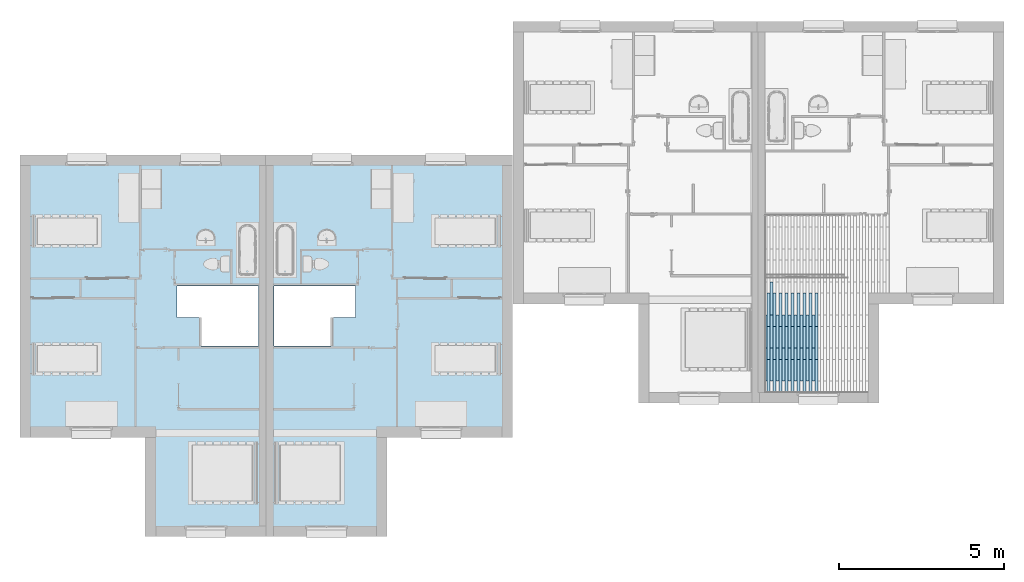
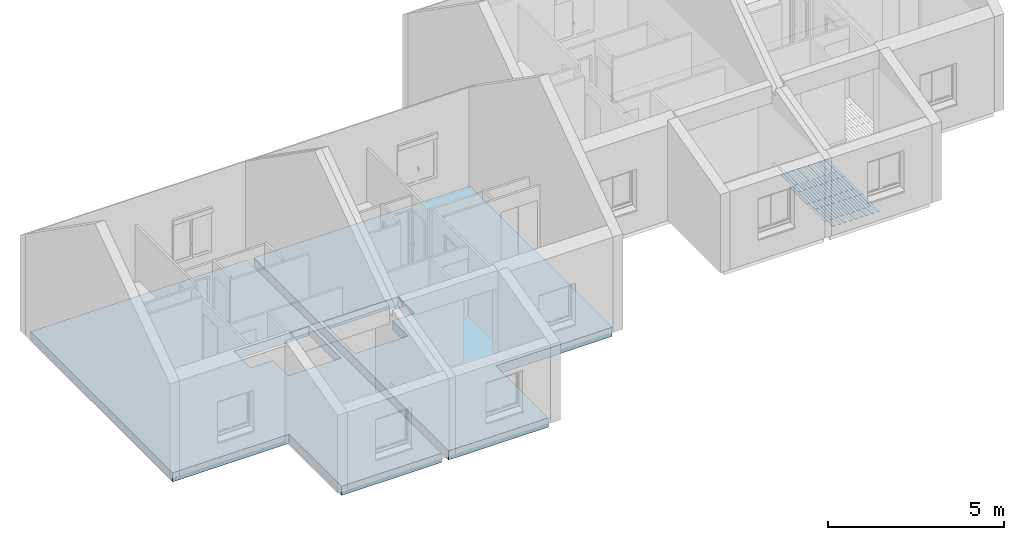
# One storey, part 1 of 50: 48 slabs, 2 openings.
"""IFC2X3 building model written with IfcOpenShell, lengths in metres."""

from ifc_helpers import new_model, entity, si_unit, converted_unit, derived_unit, direction, frame, frame_2d, origin, place, context, subcontext, project, spatial, polyline, rectangle, outline, extrude, material, layer, layer_set, layer_usage, element, save


model = new_model("IFC2X3")

# Units and contexts
model_context = context("Model", 3, precision=1e-05, world=origin(), true_north=direction((6.12303176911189e-17, 1.0)))
context_of_model = context(None, 3, precision=1e-05, world=origin(), true_north=direction((6.12303176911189e-17, 1.0)))
body_context = subcontext(model_context, "Body", "Model", "MODEL_VIEW")
ifc_project = project(units=[si_unit("LENGTHUNIT", "METRE"), si_unit("AREAUNIT", "SQUARE_METRE"), si_unit("VOLUMEUNIT", "CUBIC_METRE"), converted_unit("PLANEANGLEUNIT", "DEGREE", entity("IfcRatioMeasure", 0.0174532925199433), si_unit("PLANEANGLEUNIT", "RADIAN"), dimensions=[0, 0, 0, 0, 0, 0, 0]), si_unit("MASSUNIT", "GRAM", prefix="KILO"), si_unit("TIMEUNIT", "SECOND"), si_unit("FREQUENCYUNIT", "HERTZ"), si_unit("THERMODYNAMICTEMPERATUREUNIT", "DEGREE_CELSIUS"), derived_unit("THERMALTRANSMITTANCEUNIT", [(si_unit("MASSUNIT", "GRAM", prefix="KILO"), 1), (si_unit("THERMODYNAMICTEMPERATUREUNIT", "KELVIN"), -1), (si_unit("TIMEUNIT", "SECOND"), -3)]), derived_unit("VOLUMETRICFLOWRATEUNIT", [(si_unit("LENGTHUNIT", "METRE"), 3), (si_unit("TIMEUNIT", "SECOND"), -1)]), si_unit("ELECTRICCURRENTUNIT", "AMPERE"), si_unit("ELECTRICVOLTAGEUNIT", "VOLT"), si_unit("POWERUNIT", "WATT"), si_unit("FORCEUNIT", "NEWTON", prefix="KILO"), si_unit("ILLUMINANCEUNIT", "LUX"), si_unit("LUMINOUSFLUXUNIT", "LUMEN"), si_unit("LUMINOUSINTENSITYUNIT", "CANDELA"), si_unit("PRESSUREUNIT", "PASCAL")], contexts=[model_context, context_of_model])

# Site, building, storey
site_placement = place(None, origin())
site = spatial("IfcSite", under=ifc_project, at=site_placement, Name="Surface", CompositionType="ELEMENT")
building_placement = place(site_placement, origin())
building = spatial("IfcBuilding", under=site, at=building_placement, CompositionType="ELEMENT")
storey_placement = place(building_placement, frame((0.0, 0.0, 2.82)))
storey = spatial("IfcBuildingStorey", under=building, at=storey_placement, Name="ETAGE", CompositionType="ELEMENT", Elevation=2.82)

# Slab, opening
ifc_material_1 = material(Name="Béton")
ifc_layer_1 = layer(ifc_material_1, 0.2)
ifc_material_2 = material(Name="Isolant")
ifc_layer_2 = layer(ifc_material_2, 0.1)
ifc_material_3 = material(Name="Plastique - Blanc")
ifc_layer_3 = layer(ifc_material_3, 0.02)
ifc_layer_set_1 = layer_set([ifc_layer_1, ifc_layer_2, ifc_layer_3], Name="Sol:Dalle Béton - 20 cm  + FAUX PLAFOND")
ifc_layer_usage_1 = layer_usage(ifc_layer_set_1, "AXIS3", "POSITIVE", 0.0)
slab_1_placement = place(storey_placement, frame((68.9546263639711, 77.1177566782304, -0.3)))
slab_1 = element("IfcSlab", 1, at=slab_1_placement, inside=storey, material=ifc_layer_usage_1, Name="Sol:Dalle Béton - 20 cm  + FAUX PLAFOND", ObjectType="Sol:Dalle Béton - 20 cm  + FAUX PLAFOND", PredefinedType="FLOOR", context=body_context, shape_type="SweptSolid", body=[
    extrude(outline(polyline([(-3.55413147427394, 5.545), (-3.55413147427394, -5.545), (-0.27413147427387, -5.54499999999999), (-0.27413147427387, -2.55499999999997), (3.55413147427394, -2.55499999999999), (3.55413147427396, 5.545), (-3.55413147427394, 5.545)])), frame((3.55413147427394, 5.545, 0.32)), (0.0, 0.0, -1.0), 0.32),
])
opening_1_placement = place(storey_placement, frame((68.9546263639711, 77.1177566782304, -0.3)))
element("IfcOpeningElement", 2, at=opening_1_placement, cuts=slab_1, ObjectType="Opening", context=body_context, shape_type="SweptSolid", body=[
    extrude(outline(polyline([(3.44496571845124, 1.7966805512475), (0.977465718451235, 1.7966805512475), (0.977465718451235, 0.852480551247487), (1.70746571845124, 0.852480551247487), (1.70746571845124, -0.0199999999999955), (3.44496571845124, -0.0199999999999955), (3.44496571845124, 1.7966805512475)])), frame((3.55413147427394, 5.545, 0.32), z_axis=(0.0, 0.0, -1.0), x_axis=(-1.0, 0.0, 0.0)), (0.0, 0.0, 1.0), 0.32),
])

ifc_layer_usage_2 = layer_usage(ifc_layer_set_1, "AXIS3", "POSITIVE", 0.0)
slab_2_placement = place(storey_placement, frame((61.6063634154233, 77.1177566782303, -0.3)))
slab_2 = element("IfcSlab", 3, at=slab_2_placement, inside=storey, material=ifc_layer_usage_2, Name="Sol:Dalle Béton - 20 cm  + FAUX PLAFOND", ObjectType="Sol:Dalle Béton - 20 cm  + FAUX PLAFOND", PredefinedType="FLOOR", context=body_context, shape_type="SweptSolid", body=[
    extrude(outline(polyline([(3.55413147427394, 5.545), (-3.55413147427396, 5.545), (-3.55413147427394, -2.55499999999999), (0.27413147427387, -2.55499999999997), (0.27413147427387, -5.54499999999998), (3.55413147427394, -5.545), (3.55413147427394, 5.545)])), frame((3.55413147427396, 5.545, 0.32)), (0.0, 0.0, -1.0), 0.32),
])
opening_2_placement = place(storey_placement, frame((61.6063634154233, 77.1177566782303, -0.3)))
element("IfcOpeningElement", 4, at=opening_2_placement, cuts=slab_2, ObjectType="Opening", context=body_context, shape_type="SweptSolid", body=[
    extrude(outline(polyline([(-3.44496571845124, 1.7966805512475), (-3.44496571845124, -0.0199999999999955), (-1.70746571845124, -0.0199999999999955), (-1.70746571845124, 0.852480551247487), (-0.977465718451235, 0.852480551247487), (-0.977465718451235, 1.7966805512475), (-3.44496571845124, 1.7966805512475)])), frame((3.55413147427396, 5.545, 0.32), z_axis=(0.0, 0.0, -1.0), x_axis=(-1.0, 0.0, 0.0)), (0.0, 0.0, 1.0), 0.32),
])

# Slabs
ifc_material_4 = material(Name="PARQUET BAMBOU")
ifc_layer_4 = layer(ifc_material_4, 0.01)
ifc_layer_set_2 = layer_set([ifc_layer_4], Name="Sol:LAME DE BAMBOU")
ifc_layer_usage_3 = layer_usage(ifc_layer_set_2, "AXIS3", "POSITIVE", 0.0)
slab_3_placement = place(storey_placement, origin())
element("IfcSlab", 5, at=slab_3_placement, inside=storey, material=ifc_layer_usage_3, Name="Sol:LAME DE BAMBOU", ObjectType="Sol:LAME DE BAMBOU", PredefinedType="FLOOR", context=body_context, shape_type="SweptSolid", body=[
    extrude(rectangle(XDim=0.999999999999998, YDim=0.0899999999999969, at=frame_2d((8.68749516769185e-15, 8.66320903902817e-15), x_axis=(1.0, 0.0))), frame((84.0360898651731, 81.7475239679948, 0.05), z_axis=(0.0, 0.0, -1.0), x_axis=(0.0, 1.0, 0.0)), (0.0, 0.0, 1.0), 0.00999999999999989),
])
ifc_layer_usage_4 = layer_usage(ifc_layer_set_2, "AXIS3", "POSITIVE", 0.0)
slab_4_placement = place(storey_placement, origin())
element("IfcSlab", 6, at=slab_4_placement, inside=storey, material=ifc_layer_usage_4, Name="Sol:LAME DE BAMBOU", ObjectType="Sol:LAME DE BAMBOU", PredefinedType="FLOOR", context=body_context, shape_type="SweptSolid", body=[
    extrude(rectangle(XDim=0.999999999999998, YDim=0.0899999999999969, at=frame_2d((-8.68749516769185e-15, 8.66320903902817e-15), x_axis=(1.0, 0.0))), frame((84.0360898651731, 82.7475239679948, 0.05), z_axis=(0.0, 0.0, -1.0), x_axis=(0.0, 1.0, 0.0)), (0.0, 0.0, 1.0), 0.00999999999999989),
])
ifc_layer_usage_5 = layer_usage(ifc_layer_set_2, "AXIS3", "POSITIVE", 0.0)
slab_5_placement = place(storey_placement, origin())
element("IfcSlab", 7, at=slab_5_placement, inside=storey, material=ifc_layer_usage_5, Name="Sol:LAME DE BAMBOU", ObjectType="Sol:LAME DE BAMBOU", PredefinedType="FLOOR", context=body_context, shape_type="SweptSolid", body=[
    extrude(rectangle(XDim=0.999999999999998, YDim=0.0899999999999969, at=frame_2d((8.68749516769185e-15, 8.66320903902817e-15), x_axis=(1.0, 0.0))), frame((84.0360898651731, 83.7475239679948, 0.05), z_axis=(0.0, 0.0, -1.0), x_axis=(0.0, 1.0, 0.0)), (0.0, 0.0, 1.0), 0.00999999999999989),
])
ifc_layer_usage_6 = layer_usage(ifc_layer_set_2, "AXIS3", "POSITIVE", 0.0)
slab_6_placement = place(storey_placement, origin())
element("IfcSlab", 8, at=slab_6_placement, inside=storey, material=ifc_layer_usage_6, Name="Sol:LAME DE BAMBOU", ObjectType="Sol:LAME DE BAMBOU", PredefinedType="FLOOR", context=body_context, shape_type="SweptSolid", body=[
    extrude(rectangle(XDim=0.999999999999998, YDim=0.0899999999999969, at=frame_2d((8.68749516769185e-15, 8.66320903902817e-15), x_axis=(1.0, 0.0))), frame((84.1260898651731, 82.0875239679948, 0.05), z_axis=(0.0, 0.0, -1.0), x_axis=(0.0, 1.0, 0.0)), (0.0, 0.0, 1.0), 0.00999999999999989),
])
ifc_layer_usage_7 = layer_usage(ifc_layer_set_2, "AXIS3", "POSITIVE", 0.0)
slab_7_placement = place(storey_placement, origin())
element("IfcSlab", 9, at=slab_7_placement, inside=storey, material=ifc_layer_usage_7, Name="Sol:LAME DE BAMBOU", ObjectType="Sol:LAME DE BAMBOU", PredefinedType="FLOOR", context=body_context, shape_type="SweptSolid", body=[
    extrude(rectangle(XDim=0.999999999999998, YDim=0.0899999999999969, at=frame_2d((-8.68749516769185e-15, 8.66320903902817e-15), x_axis=(1.0, 0.0))), frame((84.1260898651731, 83.0875239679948, 0.05), z_axis=(0.0, 0.0, -1.0), x_axis=(0.0, 1.0, 0.0)), (0.0, 0.0, 1.0), 0.00999999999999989),
])
ifc_layer_usage_8 = layer_usage(ifc_layer_set_2, "AXIS3", "POSITIVE", 0.0)
slab_8_placement = place(storey_placement, origin())
element("IfcSlab", 10, at=slab_8_placement, inside=storey, material=ifc_layer_usage_8, Name="Sol:LAME DE BAMBOU", ObjectType="Sol:LAME DE BAMBOU", PredefinedType="FLOOR", context=body_context, shape_type="SweptSolid", body=[
    extrude(rectangle(XDim=0.999999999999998, YDim=0.0899999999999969, at=frame_2d((8.68749516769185e-15, 8.66320903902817e-15), x_axis=(1.0, 0.0))), frame((84.1260898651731, 84.0875239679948, 0.05), z_axis=(0.0, 0.0, -1.0), x_axis=(0.0, 1.0, 0.0)), (0.0, 0.0, 1.0), 0.00999999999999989),
])
ifc_layer_usage_9 = layer_usage(ifc_layer_set_2, "AXIS3", "POSITIVE", 0.0)
slab_9_placement = place(storey_placement, origin())
element("IfcSlab", 11, at=slab_9_placement, inside=storey, material=ifc_layer_usage_9, Name="Sol:LAME DE BAMBOU", ObjectType="Sol:LAME DE BAMBOU", PredefinedType="FLOOR", context=body_context, shape_type="SweptSolid", body=[
    extrude(rectangle(XDim=0.999999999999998, YDim=0.0899999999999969, at=frame_2d((8.68749516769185e-15, -8.66320903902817e-15), x_axis=(1.0, 0.0))), frame((84.2160898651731, 81.7475239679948, 0.05), z_axis=(0.0, 0.0, -1.0), x_axis=(0.0, 1.0, 0.0)), (0.0, 0.0, 1.0), 0.00999999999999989),
])
ifc_layer_usage_10 = layer_usage(ifc_layer_set_2, "AXIS3", "POSITIVE", 0.0)
slab_10_placement = place(storey_placement, origin())
element("IfcSlab", 12, at=slab_10_placement, inside=storey, material=ifc_layer_usage_10, Name="Sol:LAME DE BAMBOU", ObjectType="Sol:LAME DE BAMBOU", PredefinedType="FLOOR", context=body_context, shape_type="SweptSolid", body=[
    extrude(rectangle(XDim=0.999999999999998, YDim=0.0899999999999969, at=frame_2d((-8.68749516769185e-15, -8.66320903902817e-15), x_axis=(1.0, 0.0))), frame((84.2160898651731, 82.7475239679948, 0.05), z_axis=(0.0, 0.0, -1.0), x_axis=(0.0, 1.0, 0.0)), (0.0, 0.0, 1.0), 0.00999999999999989),
])
ifc_layer_usage_11 = layer_usage(ifc_layer_set_2, "AXIS3", "POSITIVE", 0.0)
slab_11_placement = place(storey_placement, origin())
element("IfcSlab", 13, at=slab_11_placement, inside=storey, material=ifc_layer_usage_11, Name="Sol:LAME DE BAMBOU", ObjectType="Sol:LAME DE BAMBOU", PredefinedType="FLOOR", context=body_context, shape_type="SweptSolid", body=[
    extrude(rectangle(XDim=0.999999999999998, YDim=0.0899999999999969, at=frame_2d((8.68749516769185e-15, -8.66320903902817e-15), x_axis=(1.0, 0.0))), frame((84.2160898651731, 83.7475239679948, 0.05), z_axis=(0.0, 0.0, -1.0), x_axis=(0.0, 1.0, 0.0)), (0.0, 0.0, 1.0), 0.00999999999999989),
])
ifc_layer_usage_12 = layer_usage(ifc_layer_set_2, "AXIS3", "POSITIVE", 0.0)
slab_12_placement = place(storey_placement, origin())
element("IfcSlab", 14, at=slab_12_placement, inside=storey, material=ifc_layer_usage_12, Name="Sol:LAME DE BAMBOU", ObjectType="Sol:LAME DE BAMBOU", PredefinedType="FLOOR", context=body_context, shape_type="SweptSolid", body=[
    extrude(rectangle(XDim=0.999999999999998, YDim=0.0899999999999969, at=frame_2d((8.68749516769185e-15, 8.66320903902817e-15), x_axis=(1.0, 0.0))), frame((84.3060898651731, 82.0875239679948, 0.05), z_axis=(0.0, 0.0, -1.0), x_axis=(0.0, 1.0, 0.0)), (0.0, 0.0, 1.0), 0.00999999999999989),
])
ifc_layer_usage_13 = layer_usage(ifc_layer_set_2, "AXIS3", "POSITIVE", 0.0)
slab_13_placement = place(storey_placement, origin())
element("IfcSlab", 15, at=slab_13_placement, inside=storey, material=ifc_layer_usage_13, Name="Sol:LAME DE BAMBOU", ObjectType="Sol:LAME DE BAMBOU", PredefinedType="FLOOR", context=body_context, shape_type="SweptSolid", body=[
    extrude(rectangle(XDim=0.999999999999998, YDim=0.0899999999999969, at=frame_2d((-8.68749516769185e-15, 8.66320903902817e-15), x_axis=(1.0, 0.0))), frame((84.3060898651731, 83.0875239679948, 0.05), z_axis=(0.0, 0.0, -1.0), x_axis=(0.0, 1.0, 0.0)), (0.0, 0.0, 1.0), 0.00999999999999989),
])
ifc_layer_usage_14 = layer_usage(ifc_layer_set_2, "AXIS3", "POSITIVE", 0.0)
slab_14_placement = place(storey_placement, origin())
element("IfcSlab", 16, at=slab_14_placement, inside=storey, material=ifc_layer_usage_14, Name="Sol:LAME DE BAMBOU", ObjectType="Sol:LAME DE BAMBOU", PredefinedType="FLOOR", context=body_context, shape_type="SweptSolid", body=[
    extrude(rectangle(XDim=0.999999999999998, YDim=0.0899999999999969, at=frame_2d((8.68749516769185e-15, 8.66320903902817e-15), x_axis=(1.0, 0.0))), frame((84.3960898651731, 81.7475239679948, 0.05), z_axis=(0.0, 0.0, -1.0), x_axis=(0.0, 1.0, 0.0)), (0.0, 0.0, 1.0), 0.00999999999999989),
])
ifc_layer_usage_15 = layer_usage(ifc_layer_set_2, "AXIS3", "POSITIVE", 0.0)
slab_15_placement = place(storey_placement, origin())
element("IfcSlab", 17, at=slab_15_placement, inside=storey, material=ifc_layer_usage_15, Name="Sol:LAME DE BAMBOU", ObjectType="Sol:LAME DE BAMBOU", PredefinedType="FLOOR", context=body_context, shape_type="SweptSolid", body=[
    extrude(rectangle(XDim=0.999999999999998, YDim=0.0899999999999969, at=frame_2d((-8.68749516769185e-15, 8.66320903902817e-15), x_axis=(1.0, 0.0))), frame((84.3960898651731, 82.7475239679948, 0.05), z_axis=(0.0, 0.0, -1.0), x_axis=(0.0, 1.0, 0.0)), (0.0, 0.0, 1.0), 0.00999999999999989),
])
ifc_layer_usage_16 = layer_usage(ifc_layer_set_2, "AXIS3", "POSITIVE", 0.0)
slab_16_placement = place(storey_placement, origin())
element("IfcSlab", 18, at=slab_16_placement, inside=storey, material=ifc_layer_usage_16, Name="Sol:LAME DE BAMBOU", ObjectType="Sol:LAME DE BAMBOU", PredefinedType="FLOOR", context=body_context, shape_type="SweptSolid", body=[
    extrude(rectangle(XDim=0.999999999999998, YDim=0.0899999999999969, at=frame_2d((8.68749516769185e-15, 8.66320903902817e-15), x_axis=(1.0, 0.0))), frame((84.3960898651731, 83.7475239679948, 0.05), z_axis=(0.0, 0.0, -1.0), x_axis=(0.0, 1.0, 0.0)), (0.0, 0.0, 1.0), 0.00999999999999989),
])
ifc_layer_usage_17 = layer_usage(ifc_layer_set_2, "AXIS3", "POSITIVE", 0.0)
slab_17_placement = place(storey_placement, origin())
element("IfcSlab", 19, at=slab_17_placement, inside=storey, material=ifc_layer_usage_17, Name="Sol:LAME DE BAMBOU", ObjectType="Sol:LAME DE BAMBOU", PredefinedType="FLOOR", context=body_context, shape_type="SweptSolid", body=[
    extrude(rectangle(XDim=0.999999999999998, YDim=0.0899999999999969, at=frame_2d((8.68749516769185e-15, 8.66320903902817e-15), x_axis=(1.0, 0.0))), frame((84.4860898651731, 82.0875239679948, 0.05), z_axis=(0.0, 0.0, -1.0), x_axis=(0.0, 1.0, 0.0)), (0.0, 0.0, 1.0), 0.00999999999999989),
])
ifc_layer_usage_18 = layer_usage(ifc_layer_set_2, "AXIS3", "POSITIVE", 0.0)
slab_18_placement = place(storey_placement, origin())
element("IfcSlab", 20, at=slab_18_placement, inside=storey, material=ifc_layer_usage_18, Name="Sol:LAME DE BAMBOU", ObjectType="Sol:LAME DE BAMBOU", PredefinedType="FLOOR", context=body_context, shape_type="SweptSolid", body=[
    extrude(rectangle(XDim=0.999999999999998, YDim=0.0899999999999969, at=frame_2d((-8.68749516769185e-15, 8.66320903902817e-15), x_axis=(1.0, 0.0))), frame((84.4860898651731, 83.0875239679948, 0.05), z_axis=(0.0, 0.0, -1.0), x_axis=(0.0, 1.0, 0.0)), (0.0, 0.0, 1.0), 0.00999999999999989),
])
ifc_layer_usage_19 = layer_usage(ifc_layer_set_2, "AXIS3", "POSITIVE", 0.0)
slab_19_placement = place(storey_placement, origin())
element("IfcSlab", 21, at=slab_19_placement, inside=storey, material=ifc_layer_usage_19, Name="Sol:LAME DE BAMBOU", ObjectType="Sol:LAME DE BAMBOU", PredefinedType="FLOOR", context=body_context, shape_type="SweptSolid", body=[
    extrude(rectangle(XDim=0.999999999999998, YDim=0.0899999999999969, at=frame_2d((8.68749516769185e-15, -8.66320903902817e-15), x_axis=(1.0, 0.0))), frame((84.5760898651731, 81.7475239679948, 0.05), z_axis=(0.0, 0.0, -1.0), x_axis=(0.0, 1.0, 0.0)), (0.0, 0.0, 1.0), 0.00999999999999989),
])
ifc_layer_usage_20 = layer_usage(ifc_layer_set_2, "AXIS3", "POSITIVE", 0.0)
slab_20_placement = place(storey_placement, origin())
element("IfcSlab", 22, at=slab_20_placement, inside=storey, material=ifc_layer_usage_20, Name="Sol:LAME DE BAMBOU", ObjectType="Sol:LAME DE BAMBOU", PredefinedType="FLOOR", context=body_context, shape_type="SweptSolid", body=[
    extrude(rectangle(XDim=0.999999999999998, YDim=0.0899999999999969, at=frame_2d((-8.68749516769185e-15, -8.66320903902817e-15), x_axis=(1.0, 0.0))), frame((84.5760898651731, 82.7475239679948, 0.05), z_axis=(0.0, 0.0, -1.0), x_axis=(0.0, 1.0, 0.0)), (0.0, 0.0, 1.0), 0.00999999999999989),
])
ifc_layer_usage_21 = layer_usage(ifc_layer_set_2, "AXIS3", "POSITIVE", 0.0)
slab_21_placement = place(storey_placement, origin())
element("IfcSlab", 23, at=slab_21_placement, inside=storey, material=ifc_layer_usage_21, Name="Sol:LAME DE BAMBOU", ObjectType="Sol:LAME DE BAMBOU", PredefinedType="FLOOR", context=body_context, shape_type="SweptSolid", body=[
    extrude(rectangle(XDim=0.999999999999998, YDim=0.0899999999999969, at=frame_2d((8.68749516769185e-15, -8.66320903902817e-15), x_axis=(1.0, 0.0))), frame((84.5760898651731, 83.7475239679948, 0.05), z_axis=(0.0, 0.0, -1.0), x_axis=(0.0, 1.0, 0.0)), (0.0, 0.0, 1.0), 0.00999999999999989),
])
ifc_layer_usage_22 = layer_usage(ifc_layer_set_2, "AXIS3", "POSITIVE", 0.0)
slab_22_placement = place(storey_placement, origin())
element("IfcSlab", 24, at=slab_22_placement, inside=storey, material=ifc_layer_usage_22, Name="Sol:LAME DE BAMBOU", ObjectType="Sol:LAME DE BAMBOU", PredefinedType="FLOOR", context=body_context, shape_type="SweptSolid", body=[
    extrude(rectangle(XDim=0.999999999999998, YDim=0.0899999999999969, at=frame_2d((8.68749516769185e-15, 8.66320903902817e-15), x_axis=(1.0, 0.0))), frame((84.6660898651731, 82.0875239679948, 0.05), z_axis=(0.0, 0.0, -1.0), x_axis=(0.0, 1.0, 0.0)), (0.0, 0.0, 1.0), 0.00999999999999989),
])
ifc_layer_usage_23 = layer_usage(ifc_layer_set_2, "AXIS3", "POSITIVE", 0.0)
slab_23_placement = place(storey_placement, origin())
element("IfcSlab", 25, at=slab_23_placement, inside=storey, material=ifc_layer_usage_23, Name="Sol:LAME DE BAMBOU", ObjectType="Sol:LAME DE BAMBOU", PredefinedType="FLOOR", context=body_context, shape_type="SweptSolid", body=[
    extrude(rectangle(XDim=0.999999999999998, YDim=0.0899999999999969, at=frame_2d((-8.68749516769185e-15, 8.66320903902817e-15), x_axis=(1.0, 0.0))), frame((84.6660898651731, 83.0875239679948, 0.05), z_axis=(0.0, 0.0, -1.0), x_axis=(0.0, 1.0, 0.0)), (0.0, 0.0, 1.0), 0.00999999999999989),
])
ifc_layer_usage_24 = layer_usage(ifc_layer_set_2, "AXIS3", "POSITIVE", 0.0)
slab_24_placement = place(storey_placement, origin())
element("IfcSlab", 26, at=slab_24_placement, inside=storey, material=ifc_layer_usage_24, Name="Sol:LAME DE BAMBOU", ObjectType="Sol:LAME DE BAMBOU", PredefinedType="FLOOR", context=body_context, shape_type="SweptSolid", body=[
    extrude(rectangle(XDim=0.999999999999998, YDim=0.0899999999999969, at=frame_2d((8.68749516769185e-15, 8.66320903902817e-15), x_axis=(1.0, 0.0))), frame((84.7560898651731, 81.7475239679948, 0.05), z_axis=(0.0, 0.0, -1.0), x_axis=(0.0, 1.0, 0.0)), (0.0, 0.0, 1.0), 0.00999999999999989),
])
ifc_layer_usage_25 = layer_usage(ifc_layer_set_2, "AXIS3", "POSITIVE", 0.0)
slab_25_placement = place(storey_placement, origin())
element("IfcSlab", 27, at=slab_25_placement, inside=storey, material=ifc_layer_usage_25, Name="Sol:LAME DE BAMBOU", ObjectType="Sol:LAME DE BAMBOU", PredefinedType="FLOOR", context=body_context, shape_type="SweptSolid", body=[
    extrude(rectangle(XDim=0.999999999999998, YDim=0.0899999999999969, at=frame_2d((-8.68749516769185e-15, 8.66320903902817e-15), x_axis=(1.0, 0.0))), frame((84.7560898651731, 82.7475239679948, 0.05), z_axis=(0.0, 0.0, -1.0), x_axis=(0.0, 1.0, 0.0)), (0.0, 0.0, 1.0), 0.00999999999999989),
])
ifc_layer_usage_26 = layer_usage(ifc_layer_set_2, "AXIS3", "POSITIVE", 0.0)
slab_26_placement = place(storey_placement, origin())
element("IfcSlab", 28, at=slab_26_placement, inside=storey, material=ifc_layer_usage_26, Name="Sol:LAME DE BAMBOU", ObjectType="Sol:LAME DE BAMBOU", PredefinedType="FLOOR", context=body_context, shape_type="SweptSolid", body=[
    extrude(rectangle(XDim=0.999999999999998, YDim=0.0899999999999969, at=frame_2d((8.68749516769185e-15, 8.66320903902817e-15), x_axis=(1.0, 0.0))), frame((84.7560898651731, 83.7475239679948, 0.05), z_axis=(0.0, 0.0, -1.0), x_axis=(0.0, 1.0, 0.0)), (0.0, 0.0, 1.0), 0.00999999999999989),
])
ifc_layer_usage_27 = layer_usage(ifc_layer_set_2, "AXIS3", "POSITIVE", 0.0)
slab_27_placement = place(storey_placement, origin())
element("IfcSlab", 29, at=slab_27_placement, inside=storey, material=ifc_layer_usage_27, Name="Sol:LAME DE BAMBOU", ObjectType="Sol:LAME DE BAMBOU", PredefinedType="FLOOR", context=body_context, shape_type="SweptSolid", body=[
    extrude(rectangle(XDim=0.999999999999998, YDim=0.0899999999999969, at=frame_2d((8.68749516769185e-15, 8.66320903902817e-15), x_axis=(1.0, 0.0))), frame((84.8460898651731, 82.0875239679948, 0.05), z_axis=(0.0, 0.0, -1.0), x_axis=(0.0, 1.0, 0.0)), (0.0, 0.0, 1.0), 0.00999999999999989),
])
ifc_layer_usage_28 = layer_usage(ifc_layer_set_2, "AXIS3", "POSITIVE", 0.0)
slab_28_placement = place(storey_placement, origin())
element("IfcSlab", 30, at=slab_28_placement, inside=storey, material=ifc_layer_usage_28, Name="Sol:LAME DE BAMBOU", ObjectType="Sol:LAME DE BAMBOU", PredefinedType="FLOOR", context=body_context, shape_type="SweptSolid", body=[
    extrude(rectangle(XDim=0.999999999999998, YDim=0.0899999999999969, at=frame_2d((-8.68749516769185e-15, 8.66320903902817e-15), x_axis=(1.0, 0.0))), frame((84.8460898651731, 83.0875239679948, 0.05), z_axis=(0.0, 0.0, -1.0), x_axis=(0.0, 1.0, 0.0)), (0.0, 0.0, 1.0), 0.00999999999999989),
])
ifc_layer_usage_29 = layer_usage(ifc_layer_set_2, "AXIS3", "POSITIVE", 0.0)
slab_29_placement = place(storey_placement, origin())
element("IfcSlab", 31, at=slab_29_placement, inside=storey, material=ifc_layer_usage_29, Name="Sol:LAME DE BAMBOU", ObjectType="Sol:LAME DE BAMBOU", PredefinedType="FLOOR", context=body_context, shape_type="SweptSolid", body=[
    extrude(rectangle(XDim=0.999999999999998, YDim=0.0899999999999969, at=frame_2d((8.68749516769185e-15, -8.66320903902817e-15), x_axis=(1.0, 0.0))), frame((84.9360898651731, 81.7475239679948, 0.05), z_axis=(0.0, 0.0, -1.0), x_axis=(0.0, 1.0, 0.0)), (0.0, 0.0, 1.0), 0.00999999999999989),
])
ifc_layer_usage_30 = layer_usage(ifc_layer_set_2, "AXIS3", "POSITIVE", 0.0)
slab_30_placement = place(storey_placement, origin())
element("IfcSlab", 32, at=slab_30_placement, inside=storey, material=ifc_layer_usage_30, Name="Sol:LAME DE BAMBOU", ObjectType="Sol:LAME DE BAMBOU", PredefinedType="FLOOR", context=body_context, shape_type="SweptSolid", body=[
    extrude(rectangle(XDim=0.999999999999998, YDim=0.0899999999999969, at=frame_2d((-8.68749516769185e-15, -8.66320903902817e-15), x_axis=(1.0, 0.0))), frame((84.9360898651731, 82.7475239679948, 0.05), z_axis=(0.0, 0.0, -1.0), x_axis=(0.0, 1.0, 0.0)), (0.0, 0.0, 1.0), 0.00999999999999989),
])
ifc_layer_usage_31 = layer_usage(ifc_layer_set_2, "AXIS3", "POSITIVE", 0.0)
slab_31_placement = place(storey_placement, origin())
element("IfcSlab", 33, at=slab_31_placement, inside=storey, material=ifc_layer_usage_31, Name="Sol:LAME DE BAMBOU", ObjectType="Sol:LAME DE BAMBOU", PredefinedType="FLOOR", context=body_context, shape_type="SweptSolid", body=[
    extrude(rectangle(XDim=0.999999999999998, YDim=0.0899999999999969, at=frame_2d((8.68749516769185e-15, -8.66320903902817e-15), x_axis=(1.0, 0.0))), frame((84.9360898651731, 83.7475239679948, 0.05), z_axis=(0.0, 0.0, -1.0), x_axis=(0.0, 1.0, 0.0)), (0.0, 0.0, 1.0), 0.00999999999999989),
])
ifc_layer_usage_32 = layer_usage(ifc_layer_set_2, "AXIS3", "POSITIVE", 0.0)
slab_32_placement = place(storey_placement, origin())
element("IfcSlab", 34, at=slab_32_placement, inside=storey, material=ifc_layer_usage_32, Name="Sol:LAME DE BAMBOU", ObjectType="Sol:LAME DE BAMBOU", PredefinedType="FLOOR", context=body_context, shape_type="SweptSolid", body=[
    extrude(rectangle(XDim=0.999999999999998, YDim=0.0899999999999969, at=frame_2d((8.68749516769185e-15, 8.66320903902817e-15), x_axis=(1.0, 0.0))), frame((85.026089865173, 82.0875239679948, 0.05), z_axis=(0.0, 0.0, -1.0), x_axis=(0.0, 1.0, 0.0)), (0.0, 0.0, 1.0), 0.00999999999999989),
])
ifc_layer_usage_33 = layer_usage(ifc_layer_set_2, "AXIS3", "POSITIVE", 0.0)
slab_33_placement = place(storey_placement, origin())
element("IfcSlab", 35, at=slab_33_placement, inside=storey, material=ifc_layer_usage_33, Name="Sol:LAME DE BAMBOU", ObjectType="Sol:LAME DE BAMBOU", PredefinedType="FLOOR", context=body_context, shape_type="SweptSolid", body=[
    extrude(rectangle(XDim=0.999999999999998, YDim=0.0899999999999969, at=frame_2d((-8.68749516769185e-15, 8.66320903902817e-15), x_axis=(1.0, 0.0))), frame((85.026089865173, 83.0875239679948, 0.05), z_axis=(0.0, 0.0, -1.0), x_axis=(0.0, 1.0, 0.0)), (0.0, 0.0, 1.0), 0.00999999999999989),
])
ifc_layer_usage_34 = layer_usage(ifc_layer_set_2, "AXIS3", "POSITIVE", 0.0)
slab_34_placement = place(storey_placement, origin())
element("IfcSlab", 36, at=slab_34_placement, inside=storey, material=ifc_layer_usage_34, Name="Sol:LAME DE BAMBOU", ObjectType="Sol:LAME DE BAMBOU", PredefinedType="FLOOR", context=body_context, shape_type="SweptSolid", body=[
    extrude(rectangle(XDim=0.999999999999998, YDim=0.0899999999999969, at=frame_2d((8.68749516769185e-15, 8.66320903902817e-15), x_axis=(1.0, 0.0))), frame((85.116089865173, 81.7475239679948, 0.05), z_axis=(0.0, 0.0, -1.0), x_axis=(0.0, 1.0, 0.0)), (0.0, 0.0, 1.0), 0.00999999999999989),
])
ifc_layer_usage_35 = layer_usage(ifc_layer_set_2, "AXIS3", "POSITIVE", 0.0)
slab_35_placement = place(storey_placement, origin())
element("IfcSlab", 37, at=slab_35_placement, inside=storey, material=ifc_layer_usage_35, Name="Sol:LAME DE BAMBOU", ObjectType="Sol:LAME DE BAMBOU", PredefinedType="FLOOR", context=body_context, shape_type="SweptSolid", body=[
    extrude(rectangle(XDim=0.999999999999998, YDim=0.0899999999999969, at=frame_2d((-8.68749516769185e-15, 8.66320903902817e-15), x_axis=(1.0, 0.0))), frame((85.116089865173, 82.7475239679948, 0.05), z_axis=(0.0, 0.0, -1.0), x_axis=(0.0, 1.0, 0.0)), (0.0, 0.0, 1.0), 0.00999999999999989),
])
ifc_layer_usage_36 = layer_usage(ifc_layer_set_2, "AXIS3", "POSITIVE", 0.0)
slab_36_placement = place(storey_placement, origin())
element("IfcSlab", 38, at=slab_36_placement, inside=storey, material=ifc_layer_usage_36, Name="Sol:LAME DE BAMBOU", ObjectType="Sol:LAME DE BAMBOU", PredefinedType="FLOOR", context=body_context, shape_type="SweptSolid", body=[
    extrude(rectangle(XDim=0.999999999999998, YDim=0.0899999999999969, at=frame_2d((8.68749516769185e-15, 8.66320903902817e-15), x_axis=(1.0, 0.0))), frame((85.116089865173, 83.7475239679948, 0.05), z_axis=(0.0, 0.0, -1.0), x_axis=(0.0, 1.0, 0.0)), (0.0, 0.0, 1.0), 0.00999999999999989),
])
ifc_layer_usage_37 = layer_usage(ifc_layer_set_2, "AXIS3", "POSITIVE", 0.0)
slab_37_placement = place(storey_placement, origin())
element("IfcSlab", 39, at=slab_37_placement, inside=storey, material=ifc_layer_usage_37, Name="Sol:LAME DE BAMBOU", ObjectType="Sol:LAME DE BAMBOU", PredefinedType="FLOOR", context=body_context, shape_type="SweptSolid", body=[
    extrude(rectangle(XDim=0.999999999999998, YDim=0.0899999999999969, at=frame_2d((8.68749516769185e-15, 8.66320903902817e-15), x_axis=(1.0, 0.0))), frame((85.206089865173, 82.0875239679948, 0.05), z_axis=(0.0, 0.0, -1.0), x_axis=(0.0, 1.0, 0.0)), (0.0, 0.0, 1.0), 0.00999999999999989),
])
ifc_layer_usage_38 = layer_usage(ifc_layer_set_2, "AXIS3", "POSITIVE", 0.0)
slab_38_placement = place(storey_placement, origin())
element("IfcSlab", 40, at=slab_38_placement, inside=storey, material=ifc_layer_usage_38, Name="Sol:LAME DE BAMBOU", ObjectType="Sol:LAME DE BAMBOU", PredefinedType="FLOOR", context=body_context, shape_type="SweptSolid", body=[
    extrude(rectangle(XDim=0.999999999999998, YDim=0.0899999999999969, at=frame_2d((-8.68749516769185e-15, 8.66320903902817e-15), x_axis=(1.0, 0.0))), frame((85.206089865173, 83.0875239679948, 0.05), z_axis=(0.0, 0.0, -1.0), x_axis=(0.0, 1.0, 0.0)), (0.0, 0.0, 1.0), 0.00999999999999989),
])
ifc_layer_usage_39 = layer_usage(ifc_layer_set_2, "AXIS3", "POSITIVE", 0.0)
slab_39_placement = place(storey_placement, origin())
element("IfcSlab", 41, at=slab_39_placement, inside=storey, material=ifc_layer_usage_39, Name="Sol:LAME DE BAMBOU", ObjectType="Sol:LAME DE BAMBOU", PredefinedType="FLOOR", context=body_context, shape_type="SweptSolid", body=[
    extrude(rectangle(XDim=0.999999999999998, YDim=0.0899999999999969, at=frame_2d((8.68749516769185e-15, -8.66320903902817e-15), x_axis=(1.0, 0.0))), frame((85.2960898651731, 81.7475239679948, 0.05), z_axis=(0.0, 0.0, -1.0), x_axis=(0.0, 1.0, 0.0)), (0.0, 0.0, 1.0), 0.00999999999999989),
])
ifc_layer_usage_40 = layer_usage(ifc_layer_set_2, "AXIS3", "POSITIVE", 0.0)
slab_40_placement = place(storey_placement, origin())
element("IfcSlab", 42, at=slab_40_placement, inside=storey, material=ifc_layer_usage_40, Name="Sol:LAME DE BAMBOU", ObjectType="Sol:LAME DE BAMBOU", PredefinedType="FLOOR", context=body_context, shape_type="SweptSolid", body=[
    extrude(rectangle(XDim=0.999999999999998, YDim=0.0899999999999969, at=frame_2d((-8.68749516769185e-15, -8.66320903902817e-15), x_axis=(1.0, 0.0))), frame((85.2960898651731, 82.7475239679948, 0.05), z_axis=(0.0, 0.0, -1.0), x_axis=(0.0, 1.0, 0.0)), (0.0, 0.0, 1.0), 0.00999999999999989),
])
ifc_layer_usage_41 = layer_usage(ifc_layer_set_2, "AXIS3", "POSITIVE", 0.0)
slab_41_placement = place(storey_placement, origin())
element("IfcSlab", 43, at=slab_41_placement, inside=storey, material=ifc_layer_usage_41, Name="Sol:LAME DE BAMBOU", ObjectType="Sol:LAME DE BAMBOU", PredefinedType="FLOOR", context=body_context, shape_type="SweptSolid", body=[
    extrude(rectangle(XDim=0.999999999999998, YDim=0.0899999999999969, at=frame_2d((8.68749516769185e-15, -8.66320903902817e-15), x_axis=(1.0, 0.0))), frame((85.2960898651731, 83.7475239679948, 0.05), z_axis=(0.0, 0.0, -1.0), x_axis=(0.0, 1.0, 0.0)), (0.0, 0.0, 1.0), 0.00999999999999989),
])
ifc_layer_usage_42 = layer_usage(ifc_layer_set_2, "AXIS3", "POSITIVE", 0.0)
slab_42_placement = place(storey_placement, origin())
element("IfcSlab", 44, at=slab_42_placement, inside=storey, material=ifc_layer_usage_42, Name="Sol:LAME DE BAMBOU", ObjectType="Sol:LAME DE BAMBOU", PredefinedType="FLOOR", context=body_context, shape_type="SweptSolid", body=[
    extrude(rectangle(XDim=0.999999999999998, YDim=0.0899999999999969, at=frame_2d((8.68749516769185e-15, 8.66320903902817e-15), x_axis=(1.0, 0.0))), frame((85.386089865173, 82.0875239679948, 0.05), z_axis=(0.0, 0.0, -1.0), x_axis=(0.0, 1.0, 0.0)), (0.0, 0.0, 1.0), 0.00999999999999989),
])
ifc_layer_usage_43 = layer_usage(ifc_layer_set_2, "AXIS3", "POSITIVE", 0.0)
slab_43_placement = place(storey_placement, origin())
element("IfcSlab", 45, at=slab_43_placement, inside=storey, material=ifc_layer_usage_43, Name="Sol:LAME DE BAMBOU", ObjectType="Sol:LAME DE BAMBOU", PredefinedType="FLOOR", context=body_context, shape_type="SweptSolid", body=[
    extrude(rectangle(XDim=0.999999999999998, YDim=0.0899999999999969, at=frame_2d((-8.68749516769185e-15, 8.66320903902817e-15), x_axis=(1.0, 0.0))), frame((85.386089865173, 83.0875239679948, 0.05), z_axis=(0.0, 0.0, -1.0), x_axis=(0.0, 1.0, 0.0)), (0.0, 0.0, 1.0), 0.00999999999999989),
])
ifc_layer_usage_44 = layer_usage(ifc_layer_set_2, "AXIS3", "POSITIVE", 0.0)
slab_44_placement = place(storey_placement, origin())
element("IfcSlab", 46, at=slab_44_placement, inside=storey, material=ifc_layer_usage_44, Name="Sol:LAME DE BAMBOU", ObjectType="Sol:LAME DE BAMBOU", PredefinedType="FLOOR", context=body_context, shape_type="SweptSolid", body=[
    extrude(rectangle(XDim=0.999999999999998, YDim=0.0899999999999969, at=frame_2d((8.68749516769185e-15, 8.66320903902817e-15), x_axis=(1.0, 0.0))), frame((85.476089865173, 81.7475239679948, 0.05), z_axis=(0.0, 0.0, -1.0), x_axis=(0.0, 1.0, 0.0)), (0.0, 0.0, 1.0), 0.00999999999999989),
])
ifc_layer_usage_45 = layer_usage(ifc_layer_set_2, "AXIS3", "POSITIVE", 0.0)
slab_45_placement = place(storey_placement, origin())
element("IfcSlab", 47, at=slab_45_placement, inside=storey, material=ifc_layer_usage_45, Name="Sol:LAME DE BAMBOU", ObjectType="Sol:LAME DE BAMBOU", PredefinedType="FLOOR", context=body_context, shape_type="SweptSolid", body=[
    extrude(rectangle(XDim=0.999999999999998, YDim=0.0899999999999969, at=frame_2d((-8.68749516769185e-15, 8.66320903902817e-15), x_axis=(1.0, 0.0))), frame((85.476089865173, 82.7475239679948, 0.05), z_axis=(0.0, 0.0, -1.0), x_axis=(0.0, 1.0, 0.0)), (0.0, 0.0, 1.0), 0.00999999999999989),
])
ifc_layer_usage_46 = layer_usage(ifc_layer_set_2, "AXIS3", "POSITIVE", 0.0)
slab_46_placement = place(storey_placement, origin())
element("IfcSlab", 48, at=slab_46_placement, inside=storey, material=ifc_layer_usage_46, Name="Sol:LAME DE BAMBOU", ObjectType="Sol:LAME DE BAMBOU", PredefinedType="FLOOR", context=body_context, shape_type="SweptSolid", body=[
    extrude(rectangle(XDim=0.999999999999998, YDim=0.0899999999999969, at=frame_2d((8.68749516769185e-15, 8.66320903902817e-15), x_axis=(1.0, 0.0))), frame((85.476089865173, 83.7475239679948, 0.05), z_axis=(0.0, 0.0, -1.0), x_axis=(0.0, 1.0, 0.0)), (0.0, 0.0, 1.0), 0.00999999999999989),
])
ifc_layer_usage_47 = layer_usage(ifc_layer_set_2, "AXIS3", "POSITIVE", 0.0)
slab_47_placement = place(storey_placement, origin())
element("IfcSlab", 49, at=slab_47_placement, inside=storey, material=ifc_layer_usage_47, Name="Sol:LAME DE BAMBOU", ObjectType="Sol:LAME DE BAMBOU", PredefinedType="FLOOR", context=body_context, shape_type="SweptSolid", body=[
    extrude(rectangle(XDim=0.999999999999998, YDim=0.0899999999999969, at=frame_2d((8.68749516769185e-15, 8.66320903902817e-15), x_axis=(1.0, 0.0))), frame((83.9460898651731, 82.0875239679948, 0.05), z_axis=(0.0, 0.0, -1.0), x_axis=(0.0, 1.0, 0.0)), (0.0, 0.0, 1.0), 0.00999999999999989),
])
ifc_layer_usage_48 = layer_usage(ifc_layer_set_2, "AXIS3", "POSITIVE", 0.0)
slab_48_placement = place(storey_placement, origin())
element("IfcSlab", 50, at=slab_48_placement, inside=storey, material=ifc_layer_usage_48, Name="Sol:LAME DE BAMBOU", ObjectType="Sol:LAME DE BAMBOU", PredefinedType="FLOOR", context=body_context, shape_type="SweptSolid", body=[
    extrude(rectangle(XDim=0.999999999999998, YDim=0.0899999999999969, at=frame_2d((-8.68749516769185e-15, 8.66320903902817e-15), x_axis=(1.0, 0.0))), frame((83.9460898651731, 83.0875239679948, 0.05), z_axis=(0.0, 0.0, -1.0), x_axis=(0.0, 1.0, 0.0)), (0.0, 0.0, 1.0), 0.00999999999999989),
])

save(model, "model.ifc")
